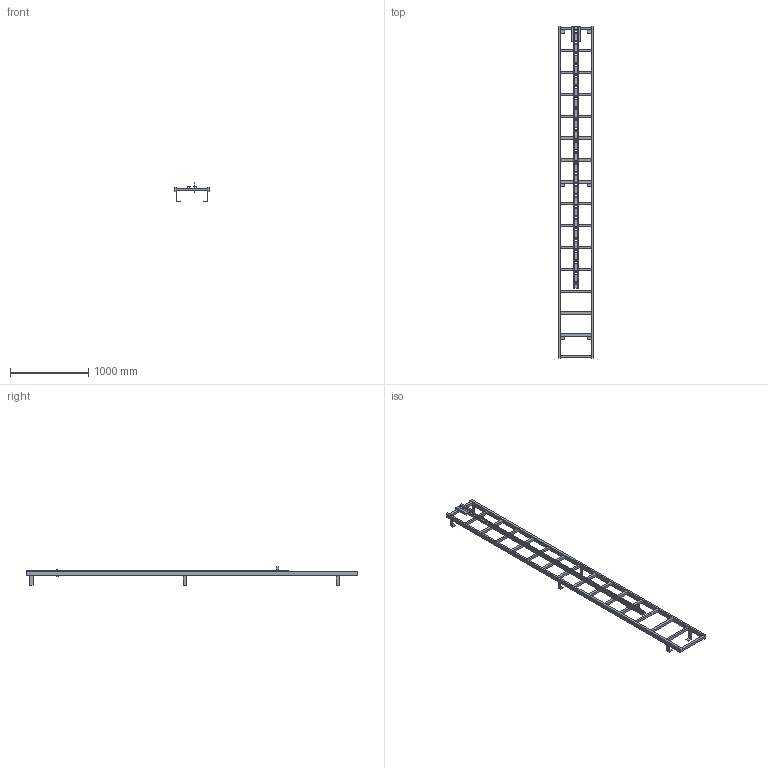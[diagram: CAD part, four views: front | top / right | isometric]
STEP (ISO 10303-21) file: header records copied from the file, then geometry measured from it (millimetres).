
FILE_DESCRIPTION((''),'2;1');
FILE_NAME('52330147','2024-12-05T08:27:28',('wep'),('HUBER SE'),'CREO PARAMETRIC BY PTC INC, 2022162','CREO PARAMETRIC BY PTC INC, 2022162','');
FILE_SCHEMA(('AUTOMOTIVE_DESIGN { 1 0 10303 214 1 1 1 1 }'));
Length unit declared in the file: millimetre
Products named in the file (1): 52330147
Bounding box: 450 x 4250 x 239 mm (x, y, z)
Volume: 18471704 mm3; surface area: 3163874.5 mm2
Topology: 2 solids, 2 shells, 268 faces, 782 edges, 512 vertices
Faces by surface type: plane 268
Entity records: 9373 total; most frequent: CARTESIAN_POINT 1564, ORIENTED_EDGE 1564, DIRECTION 1318, VECTOR 782, LINE 782, EDGE_CURVE 782, VERTEX_POINT 512, EDGE_LOOP 344
